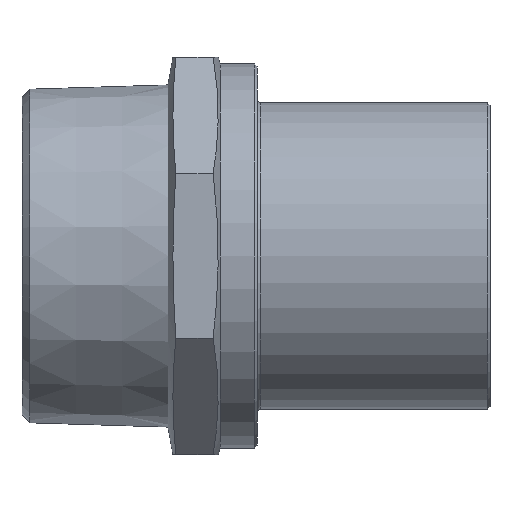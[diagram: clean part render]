
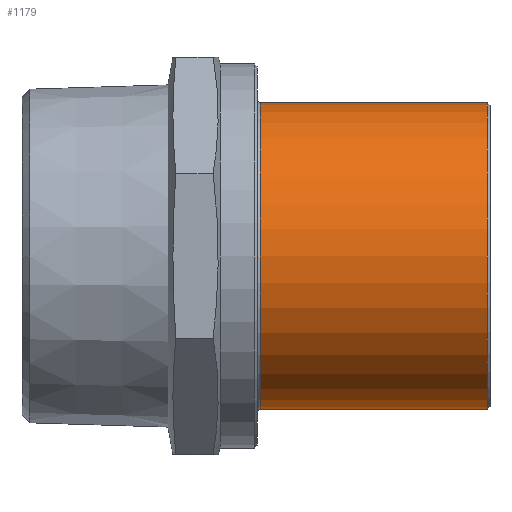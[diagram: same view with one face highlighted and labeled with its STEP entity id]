
A CAD part, left-side view. The second image highlights one B-rep face of the part: STEP entity #1179.
In plain terms, the highlighted cylindrical face has radius 27 mm (diameter 54 mm), a partial arc.
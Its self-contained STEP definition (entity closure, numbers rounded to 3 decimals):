
#4 = DIRECTION ( 'NONE',  ( 0., 0., -1. ) ) ;
#18 = DIRECTION ( 'NONE',  ( 0., -1., 0. ) ) ;
#22 = CARTESIAN_POINT ( 'NONE',  ( 0., -17.811, 27. ) ) ;
#23 = AXIS2_PLACEMENT_3D ( 'NONE', #76, #880, #556 ) ;
#25 = CARTESIAN_POINT ( 'NONE',  ( 0., -17.811, 0. ) ) ;
#76 = CARTESIAN_POINT ( 'NONE',  ( 0., 40.479, 0. ) ) ;
#116 = VERTEX_POINT ( 'NONE', #1014 ) ;
#159 = CARTESIAN_POINT ( 'NONE',  ( 0., 40.479, 27. ) ) ;
#192 = AXIS2_PLACEMENT_3D ( 'NONE', #25, #945, #4 ) ;
#268 = CYLINDRICAL_SURFACE ( 'NONE', #192, 27. ) ;
#426 = DIRECTION ( 'NONE',  ( 0., -1., 0. ) ) ;
#447 = ORIENTED_EDGE ( 'NONE', *, *, #581, .T. ) ;
#455 = EDGE_CURVE ( 'NONE', #665, #504, #531, .T. ) ;
#498 = LINE ( 'NONE', #1064, #693 ) ;
#504 = VERTEX_POINT ( 'NONE', #1192 ) ;
#531 = CIRCLE ( 'NONE', #23, 27. ) ;
#556 = DIRECTION ( 'NONE',  ( 0., 0., -1. ) ) ;
#581 = EDGE_CURVE ( 'NONE', #504, #1130, #498, .T. ) ;
#618 = EDGE_CURVE ( 'NONE', #665, #116, #882, .T. ) ;
#665 = VERTEX_POINT ( 'NONE', #159 ) ;
#693 = VECTOR ( 'NONE', #426, 1000. ) ;
#751 = FACE_OUTER_BOUND ( 'NONE', #1094, .T. ) ;
#767 = DIRECTION ( 'NONE',  ( 0., 0., -1. ) ) ;
#773 = CARTESIAN_POINT ( 'NONE',  ( 0., 0.5, 0. ) ) ;
#783 = ORIENTED_EDGE ( 'NONE', *, *, #618, .F. ) ;
#834 = EDGE_CURVE ( 'NONE', #116, #1130, #1077, .T. ) ;
#880 = DIRECTION ( 'NONE',  ( 0., -1., 0. ) ) ;
#882 = LINE ( 'NONE', #22, #986 ) ;
#926 = ORIENTED_EDGE ( 'NONE', *, *, #834, .F. ) ;
#945 = DIRECTION ( 'NONE',  ( 0., -1., 0. ) ) ;
#953 = DIRECTION ( 'NONE',  ( 0., -1., 0. ) ) ;
#986 = VECTOR ( 'NONE', #18, 1000. ) ;
#1014 = CARTESIAN_POINT ( 'NONE',  ( 0., 0.5, 27. ) ) ;
#1064 = CARTESIAN_POINT ( 'NONE',  ( 0., -17.811, -27. ) ) ;
#1077 = CIRCLE ( 'NONE', #1225, 27. ) ;
#1094 = EDGE_LOOP ( 'NONE', ( #783, #1208, #447, #926 ) ) ;
#1130 = VERTEX_POINT ( 'NONE', #1207 ) ;
#1179 = ADVANCED_FACE ( 'NONE', ( #751 ), #268, .T. ) ;
#1192 = CARTESIAN_POINT ( 'NONE',  ( 0., 40.479, -27. ) ) ;
#1207 = CARTESIAN_POINT ( 'NONE',  ( 0., 0.5, -27. ) ) ;
#1208 = ORIENTED_EDGE ( 'NONE', *, *, #455, .T. ) ;
#1225 = AXIS2_PLACEMENT_3D ( 'NONE', #773, #953, #767 ) ;
